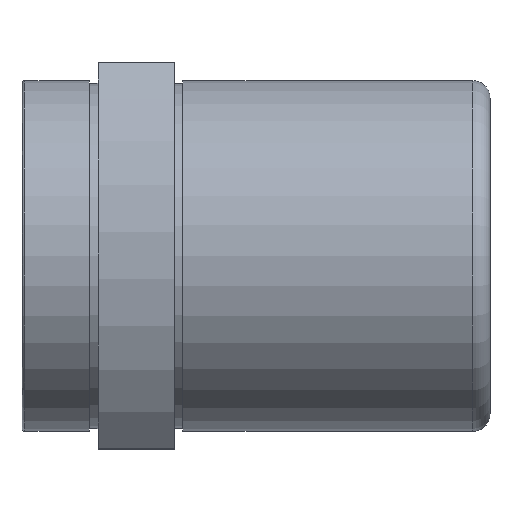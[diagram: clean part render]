
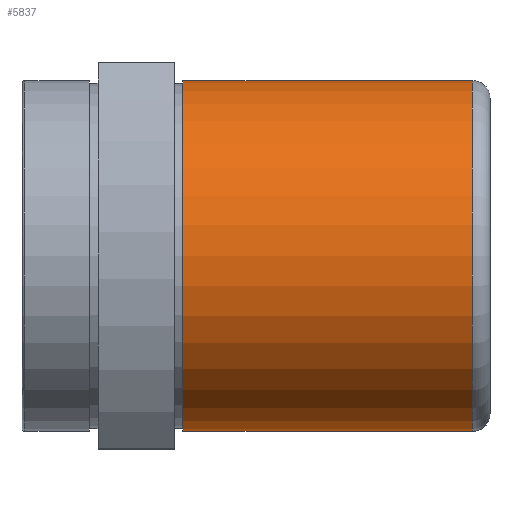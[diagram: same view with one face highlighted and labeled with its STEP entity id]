
A CAD part, top view. The second image highlights one B-rep face of the part: STEP entity #5837.
In plain terms, the highlighted cylindrical face has radius 30 mm (diameter 60 mm), a full revolution.
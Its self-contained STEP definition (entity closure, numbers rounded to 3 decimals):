
#83=CYLINDRICAL_SURFACE('',#6210,30.);
#112=CIRCLE('',#6209,30.);
#113=CIRCLE('',#6211,30.);
#519=ORIENTED_EDGE('',*,*,#2191,.F.);
#520=ORIENTED_EDGE('',*,*,#2190,.T.);
#2190=EDGE_CURVE('',#3027,#3027,#112,.T.);
#2191=EDGE_CURVE('',#3028,#3028,#113,.T.);
#3027=VERTEX_POINT('',#9210);
#3028=VERTEX_POINT('',#9213);
#4757=EDGE_LOOP('',(#519));
#4758=EDGE_LOOP('',(#520));
#5187=FACE_BOUND('',#4757,.T.);
#5188=FACE_BOUND('',#4758,.T.);
#5837=ADVANCED_FACE('',(#5187,#5188),#83,.T.);
#6209=AXIS2_PLACEMENT_3D('',#9209,#6754,#6755);
#6210=AXIS2_PLACEMENT_3D('',#9211,#6756,#6757);
#6211=AXIS2_PLACEMENT_3D('',#9212,#6758,#6759);
#6754=DIRECTION('',(-1.,0.,0.));
#6755=DIRECTION('',(0.,1.,0.));
#6756=DIRECTION('',(-1.,0.,0.));
#6757=DIRECTION('',(0.,1.,0.));
#6758=DIRECTION('',(-1.,0.,0.));
#6759=DIRECTION('',(0.,1.,0.));
#9209=CARTESIAN_POINT('',(77.,0.,0.));
#9210=CARTESIAN_POINT('',(77.,30.,0.));
#9211=CARTESIAN_POINT('',(80.,0.,0.));
#9212=CARTESIAN_POINT('',(27.5,0.,0.));
#9213=CARTESIAN_POINT('',(27.5,30.,0.));
